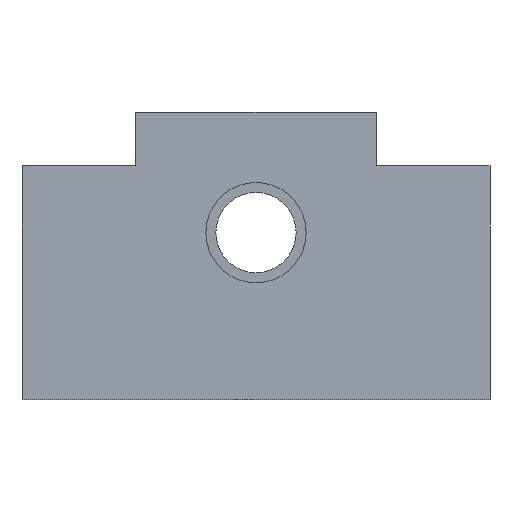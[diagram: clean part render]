
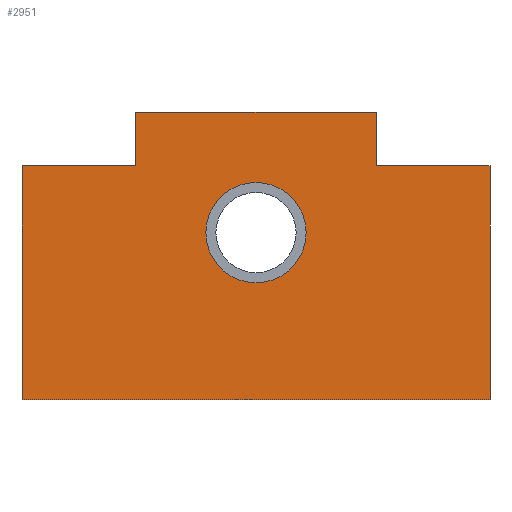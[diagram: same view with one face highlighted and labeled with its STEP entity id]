
A CAD part, left-side view. The second image highlights one B-rep face of the part: STEP entity #2951.
In plain terms, the highlighted planar face has unit normal (-1, 0, 0).
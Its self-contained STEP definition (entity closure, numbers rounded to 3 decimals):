
#2023=CARTESIAN_POINT('',(-24.,7.5,0.0));
#2024=VERTEX_POINT('',#2023);
#2025=CARTESIAN_POINT('',(-24.,0.0,0.0));
#2026=DIRECTION('',(1.0,0.0,0.0));
#2027=DIRECTION('',(0.0,1.0,0.0));
#2028=AXIS2_PLACEMENT_3D('',#2025,#2026,#2027);
#2029=CIRCLE('',#2028,7.5);
#2030=EDGE_CURVE('',#2024,#2024,#2029,.T.);
#2722=CARTESIAN_POINT('',(-24.,-35.0,-25.));
#2723=VERTEX_POINT('',#2722);
#2724=CARTESIAN_POINT('',(-24.,35.0,-25.));
#2725=VERTEX_POINT('',#2724);
#2726=CARTESIAN_POINT('',(-24.,-35.0,-25.));
#2727=DIRECTION('',(0.0,1.0,0.0));
#2728=VECTOR('',#2727,70.0);
#2729=LINE('',#2726,#2728);
#2730=EDGE_CURVE('',#2723,#2725,#2729,.T.);
#2759=CARTESIAN_POINT('',(-24.,35.0,10.));
#2760=VERTEX_POINT('',#2759);
#2761=CARTESIAN_POINT('',(-24.,35.0,-25.));
#2762=DIRECTION('',(0.0,0.0,1.0));
#2763=VECTOR('',#2762,35.0);
#2764=LINE('',#2761,#2763);
#2765=EDGE_CURVE('',#2725,#2760,#2764,.T.);
#2783=CARTESIAN_POINT('',(-24.,18.0,10.));
#2784=VERTEX_POINT('',#2783);
#2785=CARTESIAN_POINT('',(-24.,35.0,10.));
#2786=DIRECTION('',(0.0,-1.0,0.0));
#2787=VECTOR('',#2786,17.0);
#2788=LINE('',#2785,#2787);
#2789=EDGE_CURVE('',#2760,#2784,#2788,.T.);
#2810=CARTESIAN_POINT('',(-24.,18.0,18.));
#2811=VERTEX_POINT('',#2810);
#2812=CARTESIAN_POINT('',(-24.,18.0,10.));
#2813=DIRECTION('',(0.0,0.0,1.0));
#2814=VECTOR('',#2813,8.);
#2815=LINE('',#2812,#2814);
#2816=EDGE_CURVE('',#2784,#2811,#2815,.T.);
#2838=CARTESIAN_POINT('',(-24.,-18.0,18.));
#2839=VERTEX_POINT('',#2838);
#2840=CARTESIAN_POINT('',(-24.,18.0,18.));
#2841=DIRECTION('',(0.0,-1.0,0.0));
#2842=VECTOR('',#2841,36.0);
#2843=LINE('',#2840,#2842);
#2844=EDGE_CURVE('',#2811,#2839,#2843,.T.);
#2866=CARTESIAN_POINT('',(-24.,-18.0,10.));
#2867=VERTEX_POINT('',#2866);
#2868=CARTESIAN_POINT('',(-24.,-18.0,18.));
#2869=DIRECTION('',(0.0,0.0,-1.0));
#2870=VECTOR('',#2869,8.);
#2871=LINE('',#2868,#2870);
#2872=EDGE_CURVE('',#2839,#2867,#2871,.T.);
#2894=CARTESIAN_POINT('',(-24.,-35.0,10.));
#2895=VERTEX_POINT('',#2894);
#2896=CARTESIAN_POINT('',(-24.,-18.0,10.));
#2897=DIRECTION('',(0.0,-1.0,0.0));
#2898=VECTOR('',#2897,17.0);
#2899=LINE('',#2896,#2898);
#2900=EDGE_CURVE('',#2867,#2895,#2899,.T.);
#2921=CARTESIAN_POINT('',(-24.,-35.0,10.));
#2922=DIRECTION('',(0.0,0.0,-1.0));
#2923=VECTOR('',#2922,35.0);
#2924=LINE('',#2921,#2923);
#2925=EDGE_CURVE('',#2895,#2723,#2924,.T.);
#2933=CARTESIAN_POINT('',(-24.,0.,-4.704));
#2934=DIRECTION('',(1.0,0.0,0.0));
#2935=DIRECTION('',(0.0,0.0,-1.0));
#2936=AXIS2_PLACEMENT_3D('',#2933,#2934,#2935);
#2937=PLANE('',#2936);
#2938=ORIENTED_EDGE('',*,*,#2730,.F.);
#2939=ORIENTED_EDGE('',*,*,#2925,.F.);
#2940=ORIENTED_EDGE('',*,*,#2900,.F.);
#2941=ORIENTED_EDGE('',*,*,#2872,.F.);
#2942=ORIENTED_EDGE('',*,*,#2844,.F.);
#2943=ORIENTED_EDGE('',*,*,#2816,.F.);
#2944=ORIENTED_EDGE('',*,*,#2789,.F.);
#2945=ORIENTED_EDGE('',*,*,#2765,.F.);
#2946=EDGE_LOOP('',(#2938,#2939,#2940,#2941,#2942,#2943,#2944,#2945));
#2947=FACE_OUTER_BOUND('',#2946,.T.);
#2948=ORIENTED_EDGE('',*,*,#2030,.T.);
#2949=EDGE_LOOP('',(#2948));
#2950=FACE_BOUND('',#2949,.T.);
#2951=ADVANCED_FACE('',(#2947,#2950),#2937,.F.);
